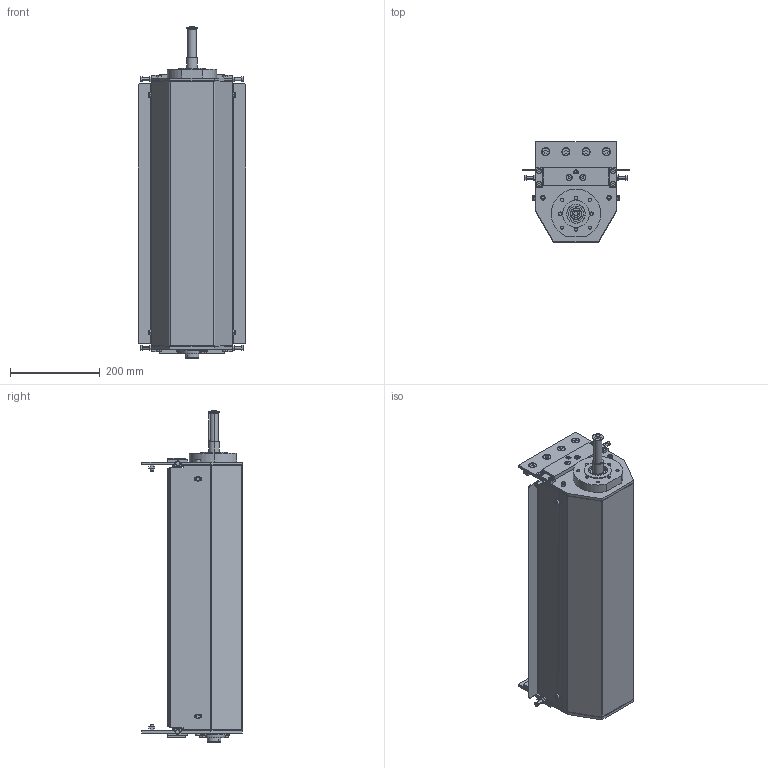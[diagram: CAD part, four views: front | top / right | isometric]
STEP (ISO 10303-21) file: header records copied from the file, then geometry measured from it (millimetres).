
FILE_DESCRIPTION (( 'STEP AP203' ), '1' );
FILE_NAME ('084.095.KCS.49.555.STEP', '2016-01-11T16:22:09', ( '' ), ( '' ), 'SwSTEP 2.0', 'SolidWorks 2016', '' );
FILE_SCHEMA (( 'CONFIG_CONTROL_DESIGN' ));
Products named in the file (1): 084.095.KCS.49.555
Bounding box: 240 x 223 x 738 mm (x, y, z)
Volume: 4105933.3 mm3; surface area: 2320361 mm2
Topology: 94 solids, 94 shells, 2196 faces, 5266 edges, 3364 vertices
Faces by surface type: plane 1052, cylinder 701, cone 341, torus 84, sphere 18
Entity records: 64428 total; most frequent: CARTESIAN_POINT 11580, DIRECTION 11453, ORIENTED_EDGE 10502, EDGE_CURVE 5251, AXIS2_PLACEMENT_3D 4206, VERTEX_POINT 3357, LINE 3041, VECTOR 3041
